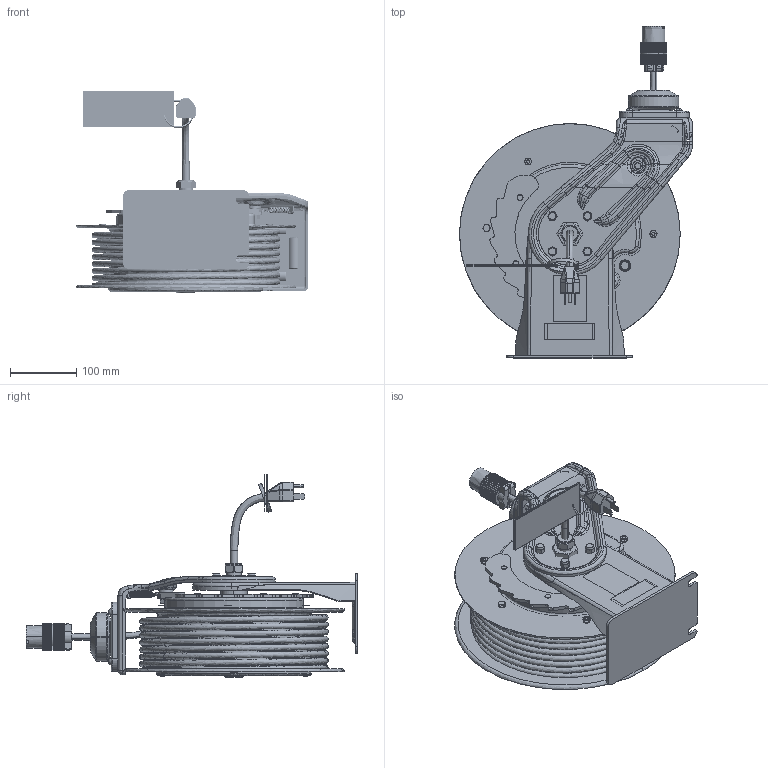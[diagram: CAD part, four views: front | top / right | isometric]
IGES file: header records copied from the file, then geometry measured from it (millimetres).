
Start section:  PTC IGES file: 24y858-en-e.igs
Global section: file name: 24y858-en-e.igs; native system: Creo Parametric by PTC Inc.; preprocessor: 2021072; author: qufmd1; organization: Unknown; date: 20220621.142209; units: inch
Bounding box: 351.5 x 500.99 x 305.83 mm (x, y, z)
Surface area: 1380197.1 mm2 (no closed solid volume)
Topology: 0 solids, 0 shells, 1399 faces, 6738 edges, 6728 vertices
Faces by surface type: bspline 700, revolution 696, extrusion 3
